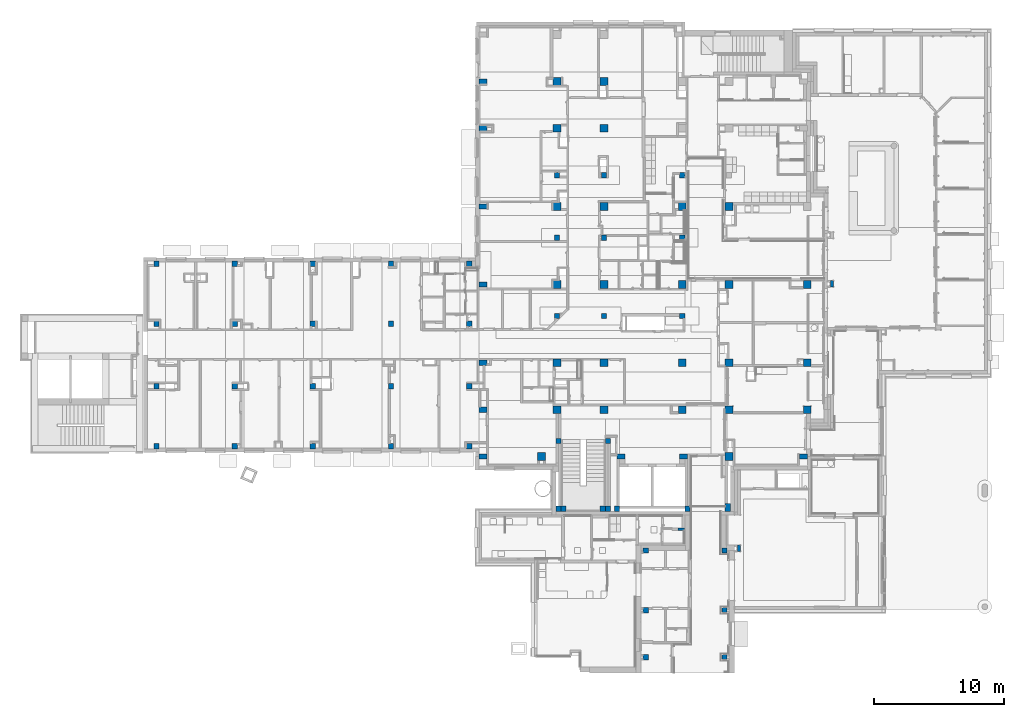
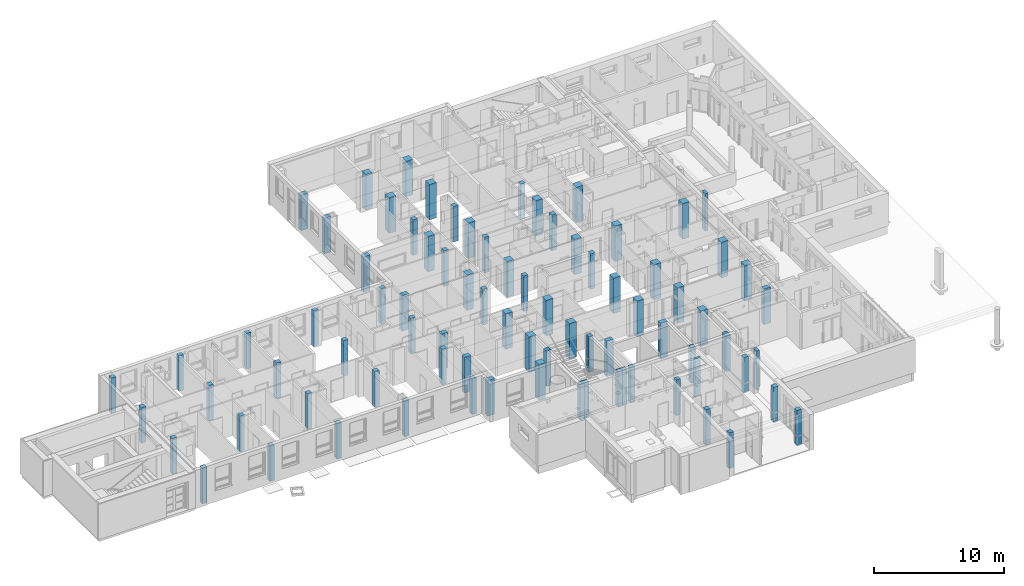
# One storey, part 1 of 140: 82 columns.
"""IFC4 building model written with IfcOpenShell, lengths in metres."""

from ifc_helpers import new_model, entity, si_unit, converted_unit, derived_unit, frame, frame_2d, origin, origin_with_axes, place, context, subcontext, project, spatial, rectangle, extrude, material, element, save


model = new_model("IFC4")

# Units and contexts
model_context = context("Model", 3, precision=1e-05, world=origin())
body_context = subcontext(model_context, "Body", "Model", "MODEL_VIEW")
ifc_project = project(units=[si_unit("LENGTHUNIT", "METRE"), si_unit("AREAUNIT", "SQUARE_METRE"), si_unit("VOLUMEUNIT", "CUBIC_METRE"), si_unit("MASSUNIT", "GRAM", prefix="KILO"), converted_unit("PLANEANGLEUNIT", "DEGREE", entity("IfcPlaneAngleMeasure", 0.0174532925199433), si_unit("PLANEANGLEUNIT", "RADIAN"), dimensions=[0, 0, 0, 0, 0, 0, 0]), derived_unit("THERMALTRANSMITTANCEUNIT", [(si_unit("POWERUNIT", "WATT"), 1), (si_unit("THERMODYNAMICTEMPERATUREUNIT", "KELVIN"), -1), (si_unit("LENGTHUNIT", "METRE"), -2)]), derived_unit("VOLUMETRICFLOWRATEUNIT", [(si_unit("LENGTHUNIT", "METRE"), 3), (converted_unit("TIMEUNIT", "hour", entity("IfcTimeMeasure", 3600.0), si_unit("TIMEUNIT", "SECOND"), dimensions=[0, 0, 1, 0, 0, 0, 0]), -1), (si_unit("LENGTHUNIT", "METRE"), -1)])], contexts=[model_context])

# Site, building, storey
site_placement = place(None, origin())
site = spatial("IfcSite", under=ifc_project, at=site_placement, Name="3. ASŘ", CompositionType="ELEMENT")
building_placement = place(site_placement, origin())
building = spatial("IfcBuilding", under=site, at=building_placement, Name="Pavilon C", CompositionType="ELEMENT")
storey_placement = place(building_placement, origin())
storey = spatial("IfcBuildingStorey", under=building, at=storey_placement, Name="Půdorys 1.NP", CompositionType="ELEMENT", Elevation=0.0)

# Columns
ifc_material_1 = material(Name="ZELEZOBETONOVÁ KCE")
column_1_placement = place(storey_placement, frame((18.2, 10.4, -0.1)))
element("IfcColumn", 1, at=column_1_placement, inside=storey, material=ifc_material_1, PredefinedType="COLUMN", context=body_context, shape_type="SweptSolid", body=[
    extrude(rectangle(XDim=0.4, YDim=0.4, at=frame_2d((-0.2, -0.2), x_axis=(-1.0, 0.0))), origin_with_axes(), (0.0, 0.0, 1.0), 3.35),
])
ifc_material_2 = material(Name="ZELEZOBETONOVÁ KCE")
column_2_placement = place(storey_placement, frame((34.55, 11.0, -0.1)))
element("IfcColumn", 2, at=column_2_placement, inside=storey, material=ifc_material_2, PredefinedType="COLUMN", context=body_context, shape_type="SweptSolid", body=[
    extrude(rectangle(XDim=0.4, YDim=0.4, at=frame_2d((-0.2, -0.2), x_axis=(-1.0, 0.0))), origin_with_axes(), (0.0, 0.0, 1.0), 3.35),
])
ifc_material_3 = material(Name="ZELEZOBETONOVÁ KCE")
column_3_placement = place(storey_placement, frame((30.95, 17.0, -0.1)))
element("IfcColumn", 3, at=column_3_placement, inside=storey, material=ifc_material_3, PredefinedType="COLUMN", context=body_context, shape_type="SweptSolid", body=[
    extrude(rectangle(XDim=0.4, YDim=0.4, at=frame_2d((-0.2, -0.2), x_axis=(-1.0, 0.0))), origin_with_axes(), (0.0, 0.0, 1.0), 3.35),
])
ifc_material_4 = material(Name="ZELEZOBETONOVÁ KCE")
column_4_placement = place(storey_placement, frame((40.65, 7.49999999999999, -0.1)))
element("IfcColumn", 4, at=column_4_placement, inside=storey, material=ifc_material_4, PredefinedType="COLUMN", context=body_context, shape_type="SweptSolid", body=[
    extrude(rectangle(XDim=0.6, YDim=0.6, at=frame_2d((-0.3, -0.3), x_axis=(-1.0, 0.0))), origin_with_axes(), (0.0, 0.0, 1.0), 3.35),
])
ifc_material_5 = material(Name="ZELEZOBETONOVÁ KCE")
column_5_placement = place(storey_placement, frame((34.65, 25.5, -0.1)))
element("IfcColumn", 5, at=column_5_placement, inside=storey, material=ifc_material_5, PredefinedType="COLUMN", context=body_context, shape_type="SweptSolid", body=[
    extrude(rectangle(XDim=0.6, YDim=0.6, at=frame_2d((-0.3, -0.3), x_axis=(-1.0, 0.0))), origin_with_axes(), (0.0, 0.0, 1.0), 3.35),
])
ifc_material_6 = material(Name="ZELEZOBETONOVÁ KCE")
column_6_placement = place(storey_placement, frame((34.85, 1.4, -0.1)))
element("IfcColumn", 6, at=column_6_placement, inside=storey, material=ifc_material_6, PredefinedType="COLUMN", context=body_context, shape_type="SweptSolid", body=[
    extrude(rectangle(XDim=0.4, YDim=0.4, at=frame_2d((-0.2, -0.2), x_axis=(-1.0, 0.0))), origin_with_axes(), (0.0, 0.0, 1.0), 3.35),
])
ifc_material_7 = material(Name="ZELEZOBETONOVÁ KCE")
column_7_placement = place(storey_placement, frame((35.95, 0.199999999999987, -0.1)))
element("IfcColumn", 7, at=column_7_placement, inside=storey, material=ifc_material_7, PredefinedType="COLUMN", context=body_context, shape_type="SweptSolid", body=[
    extrude(rectangle(XDim=0.6, YDim=0.4, at=frame_2d((-0.3, -0.2), x_axis=(-1.0, 0.0))), origin_with_axes(), (0.0, 0.0, 1.0), 3.35),
])
ifc_material_8 = material(Name="ZELEZOBETONOVÁ KCE")
column_8_placement = place(storey_placement, frame((0.200000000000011, 10.4, -0.1)))
element("IfcColumn", 8, at=column_8_placement, inside=storey, material=ifc_material_8, PredefinedType="COLUMN", context=body_context, shape_type="SweptSolid", body=[
    extrude(rectangle(XDim=0.4, YDim=0.4, at=frame_2d((-0.2, -0.2), x_axis=(-1.0, 0.0))), origin_with_axes(), (0.0, 0.0, 1.0), 3.35),
])
ifc_material_9 = material(Name="ZELEZOBETONOVÁ KCE")
column_9_placement = place(storey_placement, frame((6.20000000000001, 10.4, -0.1)))
element("IfcColumn", 9, at=column_9_placement, inside=storey, material=ifc_material_9, PredefinedType="COLUMN", context=body_context, shape_type="SweptSolid", body=[
    extrude(rectangle(XDim=0.4, YDim=0.4, at=frame_2d((-0.2, -0.2), x_axis=(-1.0, 0.0))), origin_with_axes(), (0.0, 0.0, 1.0), 3.35),
])
ifc_material_10 = material(Name="ZELEZOBETONOVÁ KCE")
column_10_placement = place(storey_placement, frame((12.2, 10.4, -0.1)))
element("IfcColumn", 10, at=column_10_placement, inside=storey, material=ifc_material_10, PredefinedType="COLUMN", context=body_context, shape_type="SweptSolid", body=[
    extrude(rectangle(XDim=0.4, YDim=0.4, at=frame_2d((-0.2, -0.2), x_axis=(-1.0, 0.0))), origin_with_axes(), (0.0, 0.0, 1.0), 3.35),
])
ifc_material_11 = material(Name="ZELEZOBETONOVÁ KCE")
column_11_placement = place(storey_placement, frame((24.2, 10.4, -0.1)))
element("IfcColumn", 11, at=column_11_placement, inside=storey, material=ifc_material_11, PredefinedType="COLUMN", context=body_context, shape_type="SweptSolid", body=[
    extrude(rectangle(XDim=0.399999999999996, YDim=0.4, at=frame_2d((-0.199999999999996, -0.2), x_axis=(-1.0, 0.0))), origin_with_axes(), (0.0, 0.0, 1.0), 3.35),
])
ifc_material_12 = material(Name="ZELEZOBETONOVÁ KCE")
column_12_placement = place(storey_placement, frame((0.200000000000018, 5.6, -0.1)))
element("IfcColumn", 12, at=column_12_placement, inside=storey, material=ifc_material_12, PredefinedType="COLUMN", context=body_context, shape_type="SweptSolid", body=[
    extrude(rectangle(XDim=0.4, YDim=0.4, at=frame_2d((-0.2, -0.2), x_axis=(-1.0, 0.0))), origin_with_axes(), (0.0, 0.0, 1.0), 3.35),
])
ifc_material_13 = material(Name="ZELEZOBETONOVÁ KCE")
column_13_placement = place(storey_placement, frame((12.2, 5.6, -0.1)))
element("IfcColumn", 13, at=column_13_placement, inside=storey, material=ifc_material_13, PredefinedType="COLUMN", context=body_context, shape_type="SweptSolid", body=[
    extrude(rectangle(XDim=0.4, YDim=0.4, at=frame_2d((-0.2, -0.2), x_axis=(-1.0, 0.0))), origin_with_axes(), (0.0, 0.0, 1.0), 3.35),
])
ifc_material_14 = material(Name="ZELEZOBETONOVÁ KCE")
column_14_placement = place(storey_placement, frame((18.2, 5.6, -0.1)))
element("IfcColumn", 14, at=column_14_placement, inside=storey, material=ifc_material_14, PredefinedType="COLUMN", context=body_context, shape_type="SweptSolid", body=[
    extrude(rectangle(XDim=0.4, YDim=0.4, at=frame_2d((-0.2, -0.2), x_axis=(-1.0, 0.0))), origin_with_axes(), (0.0, 0.0, 1.0), 3.35),
])
ifc_material_15 = material(Name="ZELEZOBETONOVÁ KCE")
column_15_placement = place(storey_placement, frame((25.35, 3.8, -0.1)))
element("IfcColumn", 15, at=column_15_placement, inside=storey, material=ifc_material_15, PredefinedType="COLUMN", context=body_context, shape_type="SweptSolid", body=[
    extrude(rectangle(XDim=0.6, YDim=0.4, at=frame_2d((-0.3, -0.2), x_axis=(-1.0, 0.0))), origin_with_axes(), (0.0, 0.0, 1.0), 3.35),
])
ifc_material_16 = material(Name="ZELEZOBETONOVÁ KCE")
column_16_placement = place(storey_placement, frame((25.35, 0.199999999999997, -0.1)))
element("IfcColumn", 16, at=column_16_placement, inside=storey, material=ifc_material_16, PredefinedType="COLUMN", context=body_context, shape_type="SweptSolid", body=[
    extrude(rectangle(XDim=0.6, YDim=0.4, at=frame_2d((-0.3, -0.2), x_axis=(-1.0, 0.0))), origin_with_axes(), (0.0, 0.0, 1.0), 3.35),
])
ifc_material_17 = material(Name="ZELEZOBETONOVÁ KCE")
column_17_placement = place(storey_placement, frame((24.2, 1.0, -0.1)))
element("IfcColumn", 17, at=column_17_placement, inside=storey, material=ifc_material_17, PredefinedType="COLUMN", context=body_context, shape_type="SweptSolid", body=[
    extrude(rectangle(XDim=0.400000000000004, YDim=0.4, at=frame_2d((-0.200000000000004, -0.2), x_axis=(-1.0, 0.0))), origin_with_axes(), (0.0, 0.0, 1.0), 3.35),
])
ifc_material_18 = material(Name="ZELEZOBETONOVÁ KCE")
column_18_placement = place(storey_placement, frame((6.20000000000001, 1.0, -0.1)))
element("IfcColumn", 18, at=column_18_placement, inside=storey, material=ifc_material_18, PredefinedType="COLUMN", context=body_context, shape_type="SweptSolid", body=[
    extrude(rectangle(XDim=0.4, YDim=0.4, at=frame_2d((-0.2, -0.2), x_axis=(-1.0, 0.0))), origin_with_axes(), (0.0, 0.0, 1.0), 3.35),
])
ifc_material_19 = material(Name="ZELEZOBETONOVÁ KCE")
column_19_placement = place(storey_placement, frame((0.200000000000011, 1.0, -0.1)))
element("IfcColumn", 19, at=column_19_placement, inside=storey, material=ifc_material_19, PredefinedType="COLUMN", context=body_context, shape_type="SweptSolid", body=[
    extrude(rectangle(XDim=0.4, YDim=0.4, at=frame_2d((-0.2, -0.2), x_axis=(-1.0, 0.0))), origin_with_axes(), (0.0, 0.0, 1.0), 3.35),
])
ifc_material_20 = material(Name="ZELEZOBETONOVÁ KCE")
column_20_placement = place(storey_placement, frame((12.2, 1.0, -0.1)))
element("IfcColumn", 20, at=column_20_placement, inside=storey, material=ifc_material_20, PredefinedType="COLUMN", context=body_context, shape_type="SweptSolid", body=[
    extrude(rectangle(XDim=0.4, YDim=0.4, at=frame_2d((-0.2, -0.2), x_axis=(-1.0, 0.0))), origin_with_axes(), (0.0, 0.0, 1.0), 3.35),
])
ifc_material_21 = material(Name="ZELEZOBETONOVÁ KCE")
column_21_placement = place(storey_placement, frame((18.2, 1.0, -0.1)))
element("IfcColumn", 21, at=column_21_placement, inside=storey, material=ifc_material_21, PredefinedType="COLUMN", context=body_context, shape_type="SweptSolid", body=[
    extrude(rectangle(XDim=0.4, YDim=0.4, at=frame_2d((-0.2, -0.2), x_axis=(-1.0, 0.0))), origin_with_axes(), (0.0, 0.0, 1.0), 3.35),
])
ifc_material_22 = material(Name="ZELEZOBETONOVÁ KCE")
column_22_placement = place(storey_placement, frame((29.85, 0.299999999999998, -0.1)))
element("IfcColumn", 22, at=column_22_placement, inside=storey, material=ifc_material_22, PredefinedType="COLUMN", context=body_context, shape_type="SweptSolid", body=[
    extrude(rectangle(XDim=0.6, YDim=0.6, at=frame_2d((-0.3, -0.3), x_axis=(-1.0, 0.0))), origin_with_axes(), (0.0, 0.0, 1.0), 3.35),
])
ifc_material_23 = material(Name="ZELEZOBETONOVÁ KCE")
column_23_placement = place(storey_placement, frame((25.35, 13.4, -0.1)))
element("IfcColumn", 23, at=column_23_placement, inside=storey, material=ifc_material_23, PredefinedType="COLUMN", context=body_context, shape_type="SweptSolid", body=[
    extrude(rectangle(XDim=0.6, YDim=0.4, at=frame_2d((-0.3, -0.2), x_axis=(-1.0, 0.0))), origin_with_axes(), (0.0, 0.0, 1.0), 3.35),
])
ifc_material_24 = material(Name="ZELEZOBETONOVÁ KCE")
column_24_placement = place(storey_placement, frame((6.20000000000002, 5.6, -0.1)))
element("IfcColumn", 24, at=column_24_placement, inside=storey, material=ifc_material_24, PredefinedType="COLUMN", context=body_context, shape_type="SweptSolid", body=[
    extrude(rectangle(XDim=0.4, YDim=0.4, at=frame_2d((-0.2, -0.2), x_axis=(-1.0, 0.0))), origin_with_axes(), (0.0, 0.0, 1.0), 3.35),
])
ifc_material_25 = material(Name="ZELEZOBETONOVÁ KCE")
column_25_placement = place(storey_placement, frame((40.75, 0.199999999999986, -0.1)))
element("IfcColumn", 25, at=column_25_placement, inside=storey, material=ifc_material_25, PredefinedType="COLUMN", context=body_context, shape_type="SweptSolid", body=[
    extrude(rectangle(XDim=0.6, YDim=0.4, at=frame_2d((-0.3, -0.2), x_axis=(-1.0, 0.0))), origin_with_axes(), (0.0, 0.0, 1.0), 3.35),
])
ifc_material_26 = material(Name="ZELEZOBETONOVÁ KCE")
column_26_placement = place(storey_placement, frame((44.25, 0.29999999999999, -0.1)))
element("IfcColumn", 26, at=column_26_placement, inside=storey, material=ifc_material_26, PredefinedType="COLUMN", context=body_context, shape_type="SweptSolid", body=[
    extrude(rectangle(XDim=0.6, YDim=0.6, at=frame_2d((-0.3, -0.3), x_axis=(-1.0, 0.0))), origin_with_axes(), (0.0, 0.0, 1.0), 3.35),
])
ifc_material_27 = material(Name="ZELEZOBETONOVÁ KCE")
column_27_placement = place(storey_placement, frame((31.05, 1.4, -0.1)))
element("IfcColumn", 27, at=column_27_placement, inside=storey, material=ifc_material_27, PredefinedType="COLUMN", context=body_context, shape_type="SweptSolid", body=[
    extrude(rectangle(XDim=0.4, YDim=0.4, at=frame_2d((-0.2, -0.2), x_axis=(-1.0, 0.0))), origin_with_axes(), (0.0, 0.0, 1.0), 3.35),
])
ifc_material_28 = material(Name="ZELEZOBETONOVÁ KCE")
column_28_placement = place(storey_placement, frame((40.55, 11.0, -0.1)))
element("IfcColumn", 28, at=column_28_placement, inside=storey, material=ifc_material_28, PredefinedType="COLUMN", context=body_context, shape_type="SweptSolid", body=[
    extrude(rectangle(XDim=0.4, YDim=0.4, at=frame_2d((-0.2, -0.2), x_axis=(-1.0, 0.0))), origin_with_axes(), (0.0, 0.0, 1.0), 3.35),
])
ifc_material_29 = material(Name="ZELEZOBETONOVÁ KCE")
column_29_placement = place(storey_placement, frame((37.35, -12.0, -0.1)))
element("IfcColumn", 29, at=column_29_placement, inside=storey, material=ifc_material_29, PredefinedType="COLUMN", context=body_context, shape_type="SweptSolid", body=[
    extrude(rectangle(XDim=0.4, YDim=0.4, at=frame_2d((0.2, 0.2), x_axis=(1.0, 0.0))), origin_with_axes(), (0.0, 0.0, 1.0), 3.35),
])
ifc_material_30 = material(Name="ZELEZOBETONOVÁ KCE")
column_30_placement = place(storey_placement, frame((37.35, -15.6, -0.1)))
element("IfcColumn", 30, at=column_30_placement, inside=storey, material=ifc_material_30, PredefinedType="COLUMN", context=body_context, shape_type="SweptSolid", body=[
    extrude(rectangle(XDim=0.4, YDim=0.4, at=frame_2d((0.2, 0.2), x_axis=(1.0, 0.0))), origin_with_axes(), (0.0, 0.0, 1.0), 3.35),
])
ifc_material_31 = material(Name="ZELEZOBETONOVÁ KCE")
column_31_placement = place(storey_placement, frame((37.35, -7.4, -0.1)))
element("IfcColumn", 31, at=column_31_placement, inside=storey, material=ifc_material_31, PredefinedType="COLUMN", context=body_context, shape_type="SweptSolid", body=[
    extrude(rectangle(XDim=0.4, YDim=0.4, at=frame_2d((0.2, 0.2), x_axis=(1.0, 0.0))), origin_with_axes(), (0.0, 0.0, 1.0), 3.35),
])
ifc_material_32 = material(Name="ZELEZOBETONOVÁ KCE")
column_32_placement = place(storey_placement, frame((31.05, 3.9, -0.1)))
element("IfcColumn", 32, at=column_32_placement, inside=storey, material=ifc_material_32, PredefinedType="COLUMN", context=body_context, shape_type="SweptSolid", body=[
    extrude(rectangle(XDim=0.6, YDim=0.6, at=frame_2d((-0.3, -0.3), x_axis=(-1.0, 0.0))), origin_with_axes(), (0.0, 0.0, 1.0), 3.35),
])
ifc_material_33 = material(Name="ZELEZOBETONOVÁ KCE")
column_33_placement = place(storey_placement, frame((34.65, 3.9, -0.1)))
element("IfcColumn", 33, at=column_33_placement, inside=storey, material=ifc_material_33, PredefinedType="COLUMN", context=body_context, shape_type="SweptSolid", body=[
    extrude(rectangle(XDim=0.6, YDim=0.6, at=frame_2d((-0.3, -0.3), x_axis=(-1.0, 0.0))), origin_with_axes(), (0.0, 0.0, 1.0), 3.35),
])
ifc_material_34 = material(Name="ZELEZOBETONOVÁ KCE")
column_34_placement = place(storey_placement, frame((40.65, 3.89999999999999, -0.1)))
element("IfcColumn", 34, at=column_34_placement, inside=storey, material=ifc_material_34, PredefinedType="COLUMN", context=body_context, shape_type="SweptSolid", body=[
    extrude(rectangle(XDim=0.6, YDim=0.6, at=frame_2d((-0.3, -0.3), x_axis=(-1.0, 0.0))), origin_with_axes(), (0.0, 0.0, 1.0), 3.35),
])
ifc_material_35 = material(Name="ZELEZOBETONOVÁ KCE")
column_35_placement = place(storey_placement, frame((30.95, 11.0, -0.1)))
element("IfcColumn", 35, at=column_35_placement, inside=storey, material=ifc_material_35, PredefinedType="COLUMN", context=body_context, shape_type="SweptSolid", body=[
    extrude(rectangle(XDim=0.4, YDim=0.4, at=frame_2d((-0.2, -0.2), x_axis=(-1.0, 0.0))), origin_with_axes(), (0.0, 0.0, 1.0), 3.35),
])
ifc_material_36 = material(Name="ZELEZOBETONOVÁ KCE")
column_36_placement = place(storey_placement, frame((31.05, 13.5, -0.1)))
element("IfcColumn", 36, at=column_36_placement, inside=storey, material=ifc_material_36, PredefinedType="COLUMN", context=body_context, shape_type="SweptSolid", body=[
    extrude(rectangle(XDim=0.6, YDim=0.6, at=frame_2d((-0.3, -0.3), x_axis=(-1.0, 0.0))), origin_with_axes(), (0.0, 0.0, 1.0), 3.35),
])
ifc_material_37 = material(Name="ZELEZOBETONOVÁ KCE")
column_37_placement = place(storey_placement, frame((34.55, 17.0, -0.1)))
element("IfcColumn", 37, at=column_37_placement, inside=storey, material=ifc_material_37, PredefinedType="COLUMN", context=body_context, shape_type="SweptSolid", body=[
    extrude(rectangle(XDim=0.4, YDim=0.4, at=frame_2d((-0.2, -0.2), x_axis=(-1.0, 0.0))), origin_with_axes(), (0.0, 0.0, 1.0), 3.35),
])
ifc_material_38 = material(Name="ZELEZOBETONOVÁ KCE")
column_38_placement = place(storey_placement, frame((34.65, 13.5, -0.1)))
element("IfcColumn", 38, at=column_38_placement, inside=storey, material=ifc_material_38, PredefinedType="COLUMN", context=body_context, shape_type="SweptSolid", body=[
    extrude(rectangle(XDim=0.6, YDim=0.6, at=frame_2d((-0.3, -0.3), x_axis=(-1.0, 0.0))), origin_with_axes(), (0.0, 0.0, 1.0), 3.35),
])
ifc_material_39 = material(Name="ZELEZOBETONOVÁ KCE")
column_39_placement = place(storey_placement, frame((40.55, 17.0, -0.1)))
element("IfcColumn", 39, at=column_39_placement, inside=storey, material=ifc_material_39, PredefinedType="COLUMN", context=body_context, shape_type="SweptSolid", body=[
    extrude(rectangle(XDim=0.4, YDim=0.4, at=frame_2d((-0.2, -0.2), x_axis=(-1.0, 0.0))), origin_with_axes(), (0.0, 0.0, 1.0), 3.35),
])
ifc_material_40 = material(Name="ZELEZOBETONOVÁ KCE")
column_40_placement = place(storey_placement, frame((34.65, 29.1, -0.1)))
element("IfcColumn", 40, at=column_40_placement, inside=storey, material=ifc_material_40, PredefinedType="COLUMN", context=body_context, shape_type="SweptSolid", body=[
    extrude(rectangle(XDim=0.6, YDim=0.6, at=frame_2d((-0.3, -0.3), x_axis=(-1.0, 0.0))), origin_with_axes(), (0.0, 0.0, 1.0), 3.35),
])
ifc_material_41 = material(Name="ZELEZOBETONOVÁ KCE")
column_41_placement = place(storey_placement, frame((31.05, 25.5, -0.1)))
element("IfcColumn", 41, at=column_41_placement, inside=storey, material=ifc_material_41, PredefinedType="COLUMN", context=body_context, shape_type="SweptSolid", body=[
    extrude(rectangle(XDim=0.6, YDim=0.6, at=frame_2d((-0.3, -0.3), x_axis=(-1.0, 0.0))), origin_with_axes(), (0.0, 0.0, 1.0), 3.35),
])
ifc_material_42 = material(Name="ZELEZOBETONOVÁ KCE")
column_42_placement = place(storey_placement, frame((34.55, 21.8, -0.1)))
element("IfcColumn", 42, at=column_42_placement, inside=storey, material=ifc_material_42, PredefinedType="COLUMN", context=body_context, shape_type="SweptSolid", body=[
    extrude(rectangle(XDim=0.4, YDim=0.4, at=frame_2d((-0.2, -0.2), x_axis=(-1.0, 0.0))), origin_with_axes(), (0.0, 0.0, 1.0), 3.35),
])
ifc_material_43 = material(Name="ZELEZOBETONOVÁ KCE")
column_43_placement = place(storey_placement, frame((24.2, 15.0, -0.1)))
element("IfcColumn", 43, at=column_43_placement, inside=storey, material=ifc_material_43, PredefinedType="COLUMN", context=body_context, shape_type="SweptSolid", body=[
    extrude(rectangle(XDim=0.400000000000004, YDim=0.4, at=frame_2d((-0.200000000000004, -0.2), x_axis=(-1.0, 0.0))), origin_with_axes(), (0.0, 0.0, 1.0), 3.35),
])
ifc_material_44 = material(Name="ZELEZOBETONOVÁ KCE")
column_44_placement = place(storey_placement, frame((18.2, 15.0, -0.1)))
element("IfcColumn", 44, at=column_44_placement, inside=storey, material=ifc_material_44, PredefinedType="COLUMN", context=body_context, shape_type="SweptSolid", body=[
    extrude(rectangle(XDim=0.4, YDim=0.4, at=frame_2d((-0.2, -0.2), x_axis=(-1.0, 0.0))), origin_with_axes(), (0.0, 0.0, 1.0), 3.35),
])
ifc_material_45 = material(Name="ZELEZOBETONOVÁ KCE")
column_45_placement = place(storey_placement, frame((0.200000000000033, 15.0, -0.1)))
element("IfcColumn", 45, at=column_45_placement, inside=storey, material=ifc_material_45, PredefinedType="COLUMN", context=body_context, shape_type="SweptSolid", body=[
    extrude(rectangle(XDim=0.4, YDim=0.4, at=frame_2d((-0.2, -0.2), x_axis=(-1.0, 0.0))), origin_with_axes(), (0.0, 0.0, 1.0), 3.35),
])
ifc_material_46 = material(Name="ZELEZOBETONOVÁ KCE")
column_46_placement = place(storey_placement, frame((6.20000000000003, 15.0, -0.1)))
element("IfcColumn", 46, at=column_46_placement, inside=storey, material=ifc_material_46, PredefinedType="COLUMN", context=body_context, shape_type="SweptSolid", body=[
    extrude(rectangle(XDim=0.4, YDim=0.4, at=frame_2d((-0.2, -0.2), x_axis=(-1.0, 0.0))), origin_with_axes(), (0.0, 0.0, 1.0), 3.35),
])
ifc_material_47 = material(Name="ZELEZOBETONOVÁ KCE")
column_47_placement = place(storey_placement, frame((12.2, 15.0, -0.1)))
element("IfcColumn", 47, at=column_47_placement, inside=storey, material=ifc_material_47, PredefinedType="COLUMN", context=body_context, shape_type="SweptSolid", body=[
    extrude(rectangle(XDim=0.4, YDim=0.4, at=frame_2d((-0.2, -0.2), x_axis=(-1.0, 0.0))), origin_with_axes(), (0.0, 0.0, 1.0), 3.35),
])
ifc_material_48 = material(Name="ZELEZOBETONOVÁ KCE")
column_48_placement = place(storey_placement, frame((31.05, 29.1, -0.1)))
element("IfcColumn", 48, at=column_48_placement, inside=storey, material=ifc_material_48, PredefinedType="COLUMN", context=body_context, shape_type="SweptSolid", body=[
    extrude(rectangle(XDim=0.6, YDim=0.6, at=frame_2d((-0.3, -0.3), x_axis=(-1.0, 0.0))), origin_with_axes(), (0.0, 0.0, 1.0), 3.35),
])
ifc_material_49 = material(Name="ZELEZOBETONOVÁ KCE")
column_49_placement = place(storey_placement, frame((31.05, 19.5, -0.1)))
element("IfcColumn", 49, at=column_49_placement, inside=storey, material=ifc_material_49, PredefinedType="COLUMN", context=body_context, shape_type="SweptSolid", body=[
    extrude(rectangle(XDim=0.6, YDim=0.6, at=frame_2d((-0.3, -0.3), x_axis=(-1.0, 0.0))), origin_with_axes(), (0.0, 0.0, 1.0), 3.35),
])
ifc_material_50 = material(Name="ZELEZOBETONOVÁ KCE")
column_50_placement = place(storey_placement, frame((30.95, 21.8, -0.1)))
element("IfcColumn", 50, at=column_50_placement, inside=storey, material=ifc_material_50, PredefinedType="COLUMN", context=body_context, shape_type="SweptSolid", body=[
    extrude(rectangle(XDim=0.4, YDim=0.4, at=frame_2d((-0.2, -0.2), x_axis=(-1.0, 0.0))), origin_with_axes(), (0.0, 0.0, 1.0), 3.35),
])
ifc_material_51 = material(Name="ZELEZOBETONOVÁ KCE")
column_51_placement = place(storey_placement, frame((24.2, 5.6, -0.1)))
element("IfcColumn", 51, at=column_51_placement, inside=storey, material=ifc_material_51, PredefinedType="COLUMN", context=body_context, shape_type="SweptSolid", body=[
    extrude(rectangle(XDim=0.400000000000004, YDim=0.4, at=frame_2d((-0.200000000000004, -0.2), x_axis=(-1.0, 0.0))), origin_with_axes(), (0.0, 0.0, 1.0), 3.35),
])
ifc_material_52 = material(Name="ZELEZOBETONOVÁ KCE")
column_52_placement = place(storey_placement, frame((25.35, 7.4, -0.1)))
element("IfcColumn", 52, at=column_52_placement, inside=storey, material=ifc_material_52, PredefinedType="COLUMN", context=body_context, shape_type="SweptSolid", body=[
    extrude(rectangle(XDim=0.6, YDim=0.4, at=frame_2d((-0.3, -0.2), x_axis=(-1.0, 0.0))), origin_with_axes(), (0.0, 0.0, 1.0), 3.35),
])
ifc_material_53 = material(Name="ZELEZOBETONOVÁ KCE")
column_53_placement = place(storey_placement, frame((31.05, 7.5, -0.1)))
element("IfcColumn", 53, at=column_53_placement, inside=storey, material=ifc_material_53, PredefinedType="COLUMN", context=body_context, shape_type="SweptSolid", body=[
    extrude(rectangle(XDim=0.6, YDim=0.6, at=frame_2d((-0.3, -0.3), x_axis=(-1.0, 0.0))), origin_with_axes(), (0.0, 0.0, 1.0), 3.35),
])
ifc_material_54 = material(Name="ZELEZOBETONOVÁ KCE")
column_54_placement = place(storey_placement, frame((34.65, 7.5, -0.1)))
element("IfcColumn", 54, at=column_54_placement, inside=storey, material=ifc_material_54, PredefinedType="COLUMN", context=body_context, shape_type="SweptSolid", body=[
    extrude(rectangle(XDim=0.6, YDim=0.6, at=frame_2d((-0.3, -0.3), x_axis=(-1.0, 0.0))), origin_with_axes(), (0.0, 0.0, 1.0), 3.35),
])
ifc_material_55 = material(Name="ZELEZOBETONOVÁ KCE")
column_55_placement = place(storey_placement, frame((40.55, 21.8, -0.1)))
element("IfcColumn", 55, at=column_55_placement, inside=storey, material=ifc_material_55, PredefinedType="COLUMN", context=body_context, shape_type="SweptSolid", body=[
    extrude(rectangle(XDim=0.4, YDim=0.4, at=frame_2d((-0.2, -0.2), x_axis=(-1.0, 0.0))), origin_with_axes(), (0.0, 0.0, 1.0), 3.35),
])
ifc_material_56 = material(Name="ZELEZOBETONOVÁ KCE")
column_56_placement = place(storey_placement, frame((44.25, 13.5, -0.1)))
element("IfcColumn", 56, at=column_56_placement, inside=storey, material=ifc_material_56, PredefinedType="COLUMN", context=body_context, shape_type="SweptSolid", body=[
    extrude(rectangle(XDim=0.6, YDim=0.6, at=frame_2d((-0.3, -0.3), x_axis=(-1.0, 0.0))), origin_with_axes(), (0.0, 0.0, 1.0), 3.35),
])
ifc_material_57 = material(Name="ZELEZOBETONOVÁ KCE")
column_57_placement = place(storey_placement, frame((50.25, 13.5, -0.1)))
element("IfcColumn", 57, at=column_57_placement, inside=storey, material=ifc_material_57, PredefinedType="COLUMN", context=body_context, shape_type="SweptSolid", body=[
    extrude(rectangle(XDim=0.6, YDim=0.6, at=frame_2d((-0.3, -0.3), x_axis=(-1.0, 0.0))), origin_with_axes(), (0.0, 0.0, 1.0), 3.35),
])
ifc_material_58 = material(Name="ZELEZOBETONOVÁ KCE")
column_58_placement = place(storey_placement, frame((43.4, -12.0, -0.1)))
element("IfcColumn", 58, at=column_58_placement, inside=storey, material=ifc_material_58, PredefinedType="COLUMN", context=body_context, shape_type="SweptSolid", body=[
    extrude(rectangle(XDim=0.4, YDim=0.4, at=frame_2d((0.2, 0.2), x_axis=(1.0, 0.0))), origin_with_axes(), (0.0, 0.0, 1.0), 3.35),
])
ifc_material_59 = material(Name="ZELEZOBETONOVÁ KCE")
column_59_placement = place(storey_placement, frame((43.4, -15.6, -0.1)))
element("IfcColumn", 59, at=column_59_placement, inside=storey, material=ifc_material_59, PredefinedType="COLUMN", context=body_context, shape_type="SweptSolid", body=[
    extrude(rectangle(XDim=0.4, YDim=0.4, at=frame_2d((0.2, 0.2), x_axis=(1.0, 0.0))), origin_with_axes(), (0.0, 0.0, 1.0), 3.35),
])
ifc_material_60 = material(Name="ZELEZOBETONOVÁ KCE")
column_60_placement = place(storey_placement, frame((43.4, -7.4, -0.1)))
element("IfcColumn", 60, at=column_60_placement, inside=storey, material=ifc_material_60, PredefinedType="COLUMN", context=body_context, shape_type="SweptSolid", body=[
    extrude(rectangle(XDim=0.4, YDim=0.4, at=frame_2d((0.2, 0.2), x_axis=(1.0, 0.0))), origin_with_axes(), (0.0, 0.0, 1.0), 3.35),
])
ifc_material_61 = material(Name="ZELEZOBETONOVÁ KCE")
column_61_placement = place(storey_placement, frame((31.05, -3.79999999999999, -0.1)))
element("IfcColumn", 61, at=column_61_placement, inside=storey, material=ifc_material_61, PredefinedType="COLUMN", context=body_context, shape_type="SweptSolid", body=[
    extrude(rectangle(XDim=0.4, YDim=0.4, at=frame_2d((-0.2, -0.2), x_axis=(-1.0, 1.13686837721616e-15))), origin_with_axes(), (0.0, 0.0, 1.0), 3.35),
])
ifc_material_62 = material(Name="ZELEZOBETONOVÁ KCE")
column_62_placement = place(storey_placement, frame((34.45, -3.79999999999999, -0.1)))
element("IfcColumn", 62, at=column_62_placement, inside=storey, material=ifc_material_62, PredefinedType="COLUMN", context=body_context, shape_type="SweptSolid", body=[
    extrude(rectangle(XDim=0.4, YDim=0.4, at=frame_2d((-0.2, -0.2), x_axis=(-1.0, 1.13686837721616e-15))), origin_with_axes(), (0.0, 0.0, 1.0), 3.35),
])
ifc_material_63 = material(Name="ZELEZOBETONOVÁ KCE")
column_63_placement = place(storey_placement, frame((31.45, -3.79999999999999, -0.1)))
element("IfcColumn", 63, at=column_63_placement, inside=storey, material=ifc_material_63, PredefinedType="COLUMN", context=body_context, shape_type="SweptSolid", body=[
    extrude(rectangle(XDim=0.4, YDim=0.4, at=frame_2d((-0.2, -0.2), x_axis=(-1.0, 1.13686837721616e-15))), origin_with_axes(), (0.0, 0.0, 1.0), 3.35),
])
ifc_material_64 = material(Name="ZELEZOBETONOVÁ KCE")
column_64_placement = place(storey_placement, frame((35.55, -3.8, -0.1)))
element("IfcColumn", 64, at=column_64_placement, inside=storey, material=ifc_material_64, PredefinedType="COLUMN", context=body_context, shape_type="SweptSolid", body=[
    extrude(rectangle(XDim=0.4, YDim=0.4, at=frame_2d((-0.2, -0.2), x_axis=(-1.0, 1.13686837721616e-15))), origin_with_axes(), (0.0, 0.0, 1.0), 3.35),
])
ifc_material_65 = material(Name="ZELEZOBETONOVÁ KCE")
column_65_placement = place(storey_placement, frame((34.85, -3.79999999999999, -0.1)))
element("IfcColumn", 65, at=column_65_placement, inside=storey, material=ifc_material_65, PredefinedType="COLUMN", context=body_context, shape_type="SweptSolid", body=[
    extrude(rectangle(XDim=0.4, YDim=0.4, at=frame_2d((-0.2, -0.2), x_axis=(-1.0, 1.13686837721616e-15))), origin_with_axes(), (0.0, 0.0, 1.0), 3.35),
])
ifc_material_66 = material(Name="ZELEZOBETONOVÁ KCE")
column_66_placement = place(storey_placement, frame((40.95, -3.80000000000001, -0.1)))
element("IfcColumn", 66, at=column_66_placement, inside=storey, material=ifc_material_66, PredefinedType="COLUMN", context=body_context, shape_type="SweptSolid", body=[
    extrude(rectangle(XDim=0.4, YDim=0.399999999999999, at=frame_2d((-0.2, -0.2), x_axis=(-1.0, 0.0))), origin_with_axes(), (0.0, 0.0, 1.0), 3.35),
])
ifc_material_67 = material(Name="ZELEZOBETONOVÁ KCE")
column_67_placement = place(storey_placement, frame((43.65, -3.6, -0.1)))
element("IfcColumn", 67, at=column_67_placement, inside=storey, material=ifc_material_67, PredefinedType="COLUMN", context=body_context, shape_type="SweptSolid", body=[
    extrude(rectangle(XDim=0.6, YDim=0.4, at=frame_2d((0.2, -0.3), x_axis=(0.0, -1.0))), origin_with_axes(), (0.0, 0.0, 1.0), 3.35),
])
ifc_material_68 = material(Name="ZELEZOBETONOVÁ KCE")
column_68_placement = place(storey_placement, frame((50.25, 3.89999999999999, -0.1)))
element("IfcColumn", 68, at=column_68_placement, inside=storey, material=ifc_material_68, PredefinedType="COLUMN", context=body_context, shape_type="SweptSolid", body=[
    extrude(rectangle(XDim=0.6, YDim=0.6, at=frame_2d((-0.3, -0.3), x_axis=(-1.0, 0.0))), origin_with_axes(), (0.0, 0.0, 1.0), 3.35),
])
ifc_material_69 = material(Name="ZELEZOBETONOVÁ KCE")
column_69_placement = place(storey_placement, frame((49.95, 0.19999999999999, -0.1)))
element("IfcColumn", 69, at=column_69_placement, inside=storey, material=ifc_material_69, PredefinedType="COLUMN", context=body_context, shape_type="SweptSolid", body=[
    extrude(rectangle(XDim=0.6, YDim=0.4, at=frame_2d((-0.3, -0.2), x_axis=(-1.0, 0.0))), origin_with_axes(), (0.0, 0.0, 1.0), 3.35),
])
ifc_material_70 = material(Name="ZELEZOBETONOVÁ KCE")
column_70_placement = place(storey_placement, frame((34.65, 19.5, -0.1)))
element("IfcColumn", 70, at=column_70_placement, inside=storey, material=ifc_material_70, PredefinedType="COLUMN", context=body_context, shape_type="SweptSolid", body=[
    extrude(rectangle(XDim=0.6, YDim=0.6, at=frame_2d((-0.3, -0.3), x_axis=(-1.0, 0.0))), origin_with_axes(), (0.0, 0.0, 1.0), 3.35),
])
ifc_material_71 = material(Name="ZELEZOBETONOVÁ KCE")
column_71_placement = place(storey_placement, frame((50.25, 7.49999999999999, -0.1)))
element("IfcColumn", 71, at=column_71_placement, inside=storey, material=ifc_material_71, PredefinedType="COLUMN", context=body_context, shape_type="SweptSolid", body=[
    extrude(rectangle(XDim=0.6, YDim=0.6, at=frame_2d((-0.3, -0.3), x_axis=(-1.0, 0.0))), origin_with_axes(), (0.0, 0.0, 1.0), 3.35),
])
ifc_material_72 = material(Name="ZELEZOBETONOVÁ KCE")
column_72_placement = place(storey_placement, frame((44.25, 19.5, -0.1)))
element("IfcColumn", 72, at=column_72_placement, inside=storey, material=ifc_material_72, PredefinedType="COLUMN", context=body_context, shape_type="SweptSolid", body=[
    extrude(rectangle(XDim=0.6, YDim=0.6, at=frame_2d((-0.3, -0.3), x_axis=(-1.0, 0.0))), origin_with_axes(), (0.0, 0.0, 1.0), 3.35),
])
ifc_material_73 = material(Name="ZELEZOBETONOVÁ KCE")
column_73_placement = place(storey_placement, frame((44.25, 3.89999999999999, -0.1)))
element("IfcColumn", 73, at=column_73_placement, inside=storey, material=ifc_material_73, PredefinedType="COLUMN", context=body_context, shape_type="SweptSolid", body=[
    extrude(rectangle(XDim=0.6, YDim=0.6, at=frame_2d((-0.3, -0.3), x_axis=(-1.0, 0.0))), origin_with_axes(), (0.0, 0.0, 1.0), 3.35),
])
ifc_material_74 = material(Name="ZELEZOBETONOVÁ KCE")
column_74_placement = place(storey_placement, frame((44.25, 7.49999999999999, -0.1)))
element("IfcColumn", 74, at=column_74_placement, inside=storey, material=ifc_material_74, PredefinedType="COLUMN", context=body_context, shape_type="SweptSolid", body=[
    extrude(rectangle(XDim=0.6, YDim=0.6, at=frame_2d((-0.3, -0.3), x_axis=(-1.0, 0.0))), origin_with_axes(), (0.0, 0.0, 1.0), 3.35),
])
ifc_material_75 = material(Name="ZELEZOBETONOVÁ KCE")
column_75_placement = place(storey_placement, frame((25.35, 29.0, -0.1)))
element("IfcColumn", 75, at=column_75_placement, inside=storey, material=ifc_material_75, PredefinedType="COLUMN", context=body_context, shape_type="SweptSolid", body=[
    extrude(rectangle(XDim=0.599999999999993, YDim=0.4, at=frame_2d((-0.299999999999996, -0.2), x_axis=(-1.0, 0.0))), origin_with_axes(), (0.0, 0.0, 1.0), 3.35),
])
ifc_material_76 = material(Name="ZELEZOBETONOVÁ KCE")
column_76_placement = place(storey_placement, frame((25.35, 25.4, -0.1)))
element("IfcColumn", 76, at=column_76_placement, inside=storey, material=ifc_material_76, PredefinedType="COLUMN", context=body_context, shape_type="SweptSolid", body=[
    extrude(rectangle(XDim=0.599999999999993, YDim=0.4, at=frame_2d((-0.299999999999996, -0.2), x_axis=(-1.0, 0.0))), origin_with_axes(), (0.0, 0.0, 1.0), 3.35),
])
ifc_material_77 = material(Name="ZELEZOBETONOVÁ KCE")
column_77_placement = place(storey_placement, frame((25.35, 19.4, -0.1)))
element("IfcColumn", 77, at=column_77_placement, inside=storey, material=ifc_material_77, PredefinedType="COLUMN", context=body_context, shape_type="SweptSolid", body=[
    extrude(rectangle(XDim=0.599999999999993, YDim=0.4, at=frame_2d((-0.299999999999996, -0.2), x_axis=(-1.0, 0.0))), origin_with_axes(), (0.0, 0.0, 1.0), 3.35),
])
ifc_material_78 = material(Name="ZELEZOBETONOVÁ KCE")
column_78_placement = place(storey_placement, frame((40.65, 13.5, -0.1)))
element("IfcColumn", 78, at=column_78_placement, inside=storey, material=ifc_material_78, PredefinedType="COLUMN", context=body_context, shape_type="SweptSolid", body=[
    extrude(rectangle(XDim=0.6, YDim=0.6, at=frame_2d((-0.3, -0.3), x_axis=(-1.0, 0.0))), origin_with_axes(), (0.0, 0.0, 1.0), 3.35),
])
ifc_material_79 = material(Name="ZELEZOBETONOVÁ KCE")
column_79_placement = place(storey_placement, frame((40.65, 19.5, -0.1)))
element("IfcColumn", 79, at=column_79_placement, inside=storey, material=ifc_material_79, PredefinedType="COLUMN", context=body_context, shape_type="SweptSolid", body=[
    extrude(rectangle(XDim=0.6, YDim=0.6, at=frame_2d((-0.3, -0.3), x_axis=(-1.0, 0.0))), origin_with_axes(), (0.0, 0.0, 1.0), 3.35),
])
ifc_material_80 = material(Name="ZELEZOBETONOVÁ KCE")
column_80_placement = place(storey_placement, frame((51.73, 13.5, -0.15)))
element("IfcColumn", 80, at=column_80_placement, inside=storey, material=ifc_material_80, PredefinedType="COLUMN", context=body_context, shape_type="SweptSolid", body=[
    extrude(rectangle(XDim=0.5, YDim=0.25, at=frame_2d((0.125, -0.25), x_axis=(0.0, -1.0))), origin_with_axes(), (0.0, 0.0, 1.0), 3.55),
])
ifc_material_81 = material(Name="ZELEZOBETONOVÁ KCE")
column_81_placement = place(storey_placement, frame((44.58, -6.8, -0.3)))
element("IfcColumn", 81, at=column_81_placement, inside=storey, material=ifc_material_81, PredefinedType="COLUMN", context=body_context, shape_type="SweptSolid", body=[
    extrude(rectangle(XDim=0.5, YDim=0.25, at=frame_2d((0.125, -0.25), x_axis=(0.0, -1.0))), origin_with_axes(), (0.0, 0.0, 1.0), 3.7),
])
ifc_material_82 = material(Name="ZELEZOBETONOVÁ KCE")
column_82_placement = place(storey_placement, frame((40.03, -5.475, -0.3)))
element("IfcColumn", 82, at=column_82_placement, inside=storey, material=ifc_material_82, PredefinedType="COLUMN", context=body_context, shape_type="SweptSolid", body=[
    extrude(rectangle(XDim=0.2, YDim=0.5, at=frame_2d((0.25, -0.1), x_axis=(0.0, -1.0))), origin_with_axes(), (0.0, 0.0, 1.0), 3.55),
])

save(model, "model.ifc")
